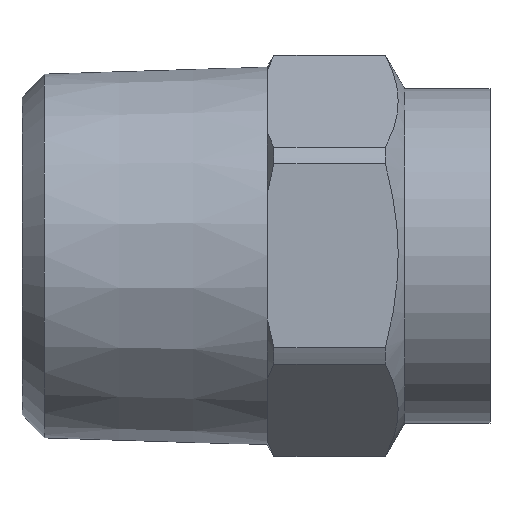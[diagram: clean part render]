
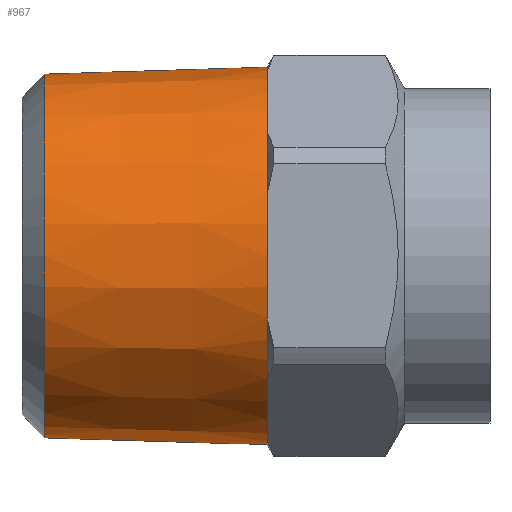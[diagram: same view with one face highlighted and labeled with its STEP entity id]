
A CAD part, top view. The second image highlights one B-rep face of the part: STEP entity #967.
In plain terms, the highlighted conical face has half-angle 1.79 degrees and reference radius 8.302 mm.
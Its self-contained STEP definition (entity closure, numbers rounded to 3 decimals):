
#73=CARTESIAN_POINT('',(11.0,5.531,-6.419));
#74=VERTEX_POINT('',#73);
#75=CARTESIAN_POINT('',(11.0,8.325,-1.581));
#76=VERTEX_POINT('',#75);
#77=CARTESIAN_POINT('',(11.,0.0,0.0));
#78=DIRECTION('',(1.0,0.0,0.0));
#79=DIRECTION('',(0.0,1.0,0.0));
#80=AXIS2_PLACEMENT_3D('',#77,#78,#79);
#81=CIRCLE('',#80,8.474);
#82=EDGE_CURVE('',#74,#76,#81,.T.);
#98=CARTESIAN_POINT('',(11.0,-2.794,-8.));
#99=VERTEX_POINT('',#98);
#100=CARTESIAN_POINT('',(11.0,2.794,-8.));
#101=VERTEX_POINT('',#100);
#102=CARTESIAN_POINT('',(11.,0.0,0.0));
#103=DIRECTION('',(1.0,0.0,0.0));
#104=DIRECTION('',(0.0,1.0,0.0));
#105=AXIS2_PLACEMENT_3D('',#102,#103,#104);
#106=CIRCLE('',#105,8.474);
#107=EDGE_CURVE('',#99,#101,#106,.T.);
#123=CARTESIAN_POINT('',(11.0,-8.325,-1.581));
#124=VERTEX_POINT('',#123);
#125=CARTESIAN_POINT('',(11.0,-5.531,-6.419));
#126=VERTEX_POINT('',#125);
#127=CARTESIAN_POINT('',(11.,0.0,0.0));
#128=DIRECTION('',(1.0,0.0,0.0));
#129=DIRECTION('',(0.0,1.0,0.0));
#130=AXIS2_PLACEMENT_3D('',#127,#128,#129);
#131=CIRCLE('',#130,8.474);
#132=EDGE_CURVE('',#124,#126,#131,.T.);
#148=CARTESIAN_POINT('',(11.0,-5.531,6.419));
#149=VERTEX_POINT('',#148);
#150=CARTESIAN_POINT('',(11.0,-8.325,1.581));
#151=VERTEX_POINT('',#150);
#152=CARTESIAN_POINT('',(11.,0.0,0.0));
#153=DIRECTION('',(1.0,0.0,0.0));
#154=DIRECTION('',(0.0,1.0,0.0));
#155=AXIS2_PLACEMENT_3D('',#152,#153,#154);
#156=CIRCLE('',#155,8.474);
#157=EDGE_CURVE('',#149,#151,#156,.T.);
#173=CARTESIAN_POINT('',(11.0,8.325,1.581));
#174=VERTEX_POINT('',#173);
#175=CARTESIAN_POINT('',(11.0,5.531,6.419));
#176=VERTEX_POINT('',#175);
#177=CARTESIAN_POINT('',(11.,0.0,0.0));
#178=DIRECTION('',(1.0,0.0,0.0));
#179=DIRECTION('',(0.0,1.0,0.0));
#180=AXIS2_PLACEMENT_3D('',#177,#178,#179);
#181=CIRCLE('',#180,8.474);
#182=EDGE_CURVE('',#174,#176,#181,.T.);
#548=CARTESIAN_POINT('',(11.0,-2.794,8.));
#549=VERTEX_POINT('',#548);
#563=CARTESIAN_POINT('',(11.,0.0,0.0));
#564=DIRECTION('',(1.0,0.0,0.0));
#565=DIRECTION('',(0.0,1.0,0.0));
#566=AXIS2_PLACEMENT_3D('',#563,#564,#565);
#567=CIRCLE('',#566,8.474);
#568=EDGE_CURVE('',#549,#149,#567,.T.);
#587=CARTESIAN_POINT('',(11.,0.0,0.0));
#588=DIRECTION('',(1.0,0.0,0.0));
#589=DIRECTION('',(0.0,1.0,0.0));
#590=AXIS2_PLACEMENT_3D('',#587,#588,#589);
#591=CIRCLE('',#590,8.474);
#592=EDGE_CURVE('',#151,#124,#591,.T.);
#611=CARTESIAN_POINT('',(11.,0.0,0.0));
#612=DIRECTION('',(1.0,0.0,0.0));
#613=DIRECTION('',(0.0,1.0,0.0));
#614=AXIS2_PLACEMENT_3D('',#611,#612,#613);
#615=CIRCLE('',#614,8.474);
#616=EDGE_CURVE('',#126,#99,#615,.T.);
#635=CARTESIAN_POINT('',(11.,0.0,0.0));
#636=DIRECTION('',(1.0,0.0,0.0));
#637=DIRECTION('',(0.0,1.0,0.0));
#638=AXIS2_PLACEMENT_3D('',#635,#636,#637);
#639=CIRCLE('',#638,8.474);
#640=EDGE_CURVE('',#101,#74,#639,.T.);
#659=CARTESIAN_POINT('',(11.,0.0,0.0));
#660=DIRECTION('',(1.0,0.0,0.0));
#661=DIRECTION('',(0.0,1.0,0.0));
#662=AXIS2_PLACEMENT_3D('',#659,#660,#661);
#663=CIRCLE('',#662,8.474);
#664=EDGE_CURVE('',#76,#174,#663,.T.);
#771=CARTESIAN_POINT('',(11.0,2.794,8.));
#772=VERTEX_POINT('',#771);
#825=CARTESIAN_POINT('',(11.,0.0,0.0));
#826=DIRECTION('',(1.0,0.0,0.0));
#827=DIRECTION('',(0.0,1.0,0.0));
#828=AXIS2_PLACEMENT_3D('',#825,#826,#827);
#829=CIRCLE('',#828,8.474);
#830=EDGE_CURVE('',#772,#549,#829,.T.);
#907=CARTESIAN_POINT('',(1.,8.161,0.));
#908=VERTEX_POINT('',#907);
#909=CARTESIAN_POINT('',(1.,0.0,0.));
#910=DIRECTION('',(-1.0,0.0,0.0));
#911=DIRECTION('',(0.0,-1.0,0.0));
#912=AXIS2_PLACEMENT_3D('',#909,#910,#911);
#913=CIRCLE('',#912,8.161);
#914=EDGE_CURVE('',#908,#908,#913,.T.);
#939=CARTESIAN_POINT('',(5.5,0.0,0.0));
#940=DIRECTION('',(1.0,0.0,0.0));
#941=DIRECTION('',(0.0,1.0,0.0));
#942=AXIS2_PLACEMENT_3D('',#939,#940,#941);
#943=CONICAL_SURFACE('',#942,8.302,1.79);
#944=ORIENTED_EDGE('',*,*,#568,.F.);
#945=ORIENTED_EDGE('',*,*,#830,.F.);
#946=CARTESIAN_POINT('',(11.,0.0,0.0));
#947=DIRECTION('',(1.0,0.0,0.0));
#948=DIRECTION('',(0.0,1.0,0.0));
#949=AXIS2_PLACEMENT_3D('',#946,#947,#948);
#950=CIRCLE('',#949,8.474);
#951=EDGE_CURVE('',#176,#772,#950,.T.);
#952=ORIENTED_EDGE('',*,*,#951,.F.);
#953=ORIENTED_EDGE('',*,*,#182,.F.);
#954=ORIENTED_EDGE('',*,*,#664,.F.);
#955=ORIENTED_EDGE('',*,*,#82,.F.);
#956=ORIENTED_EDGE('',*,*,#640,.F.);
#957=ORIENTED_EDGE('',*,*,#107,.F.);
#958=ORIENTED_EDGE('',*,*,#616,.F.);
#959=ORIENTED_EDGE('',*,*,#132,.F.);
#960=ORIENTED_EDGE('',*,*,#592,.F.);
#961=ORIENTED_EDGE('',*,*,#157,.F.);
#962=EDGE_LOOP('',(#944,#945,#952,#953,#954,#955,#956,#957,#958,#959,#960,#961));
#963=FACE_OUTER_BOUND('',#962,.T.);
#964=ORIENTED_EDGE('',*,*,#914,.F.);
#965=EDGE_LOOP('',(#964));
#966=FACE_BOUND('',#965,.T.);
#967=ADVANCED_FACE('',(#963,#966),#943,.T.);
